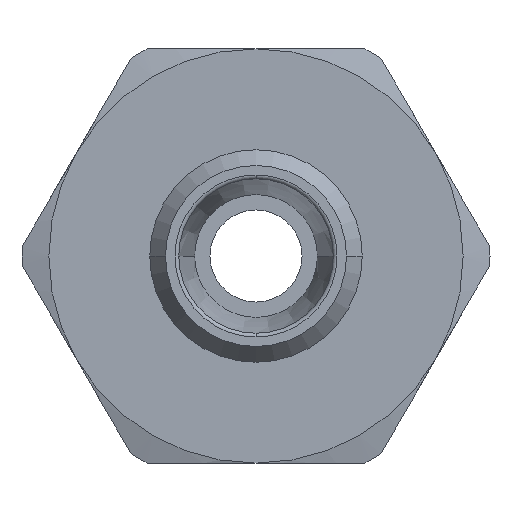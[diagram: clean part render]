
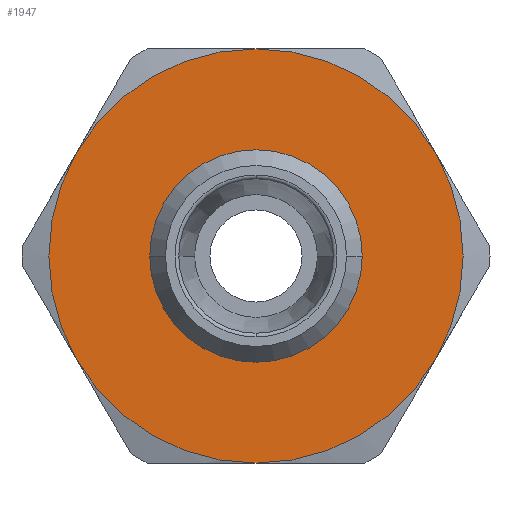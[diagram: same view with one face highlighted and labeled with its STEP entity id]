
A CAD part, left-side view. The second image highlights one B-rep face of the part: STEP entity #1947.
In plain terms, the highlighted planar face has unit normal (-1, 0, 0) as drawn and (0, 0, 1) by its records, which use the part's own axes.
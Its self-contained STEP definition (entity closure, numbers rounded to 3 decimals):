
#857=CARTESIAN_POINT('',(-6.8,0.,3.0));
#858=VERTEX_POINT('',#857);
#884=CARTESIAN_POINT('',(6.8,0.,3.0));
#885=VERTEX_POINT('',#884);
#893=CARTESIAN_POINT('',(0.,0.,3.0));
#894=DIRECTION('',(0.0,0.0,1.0));
#895=DIRECTION('',(-1.0,0.0,0.0));
#896=AXIS2_PLACEMENT_3D('',#893,#894,#895);
#897=CIRCLE('',#896,6.8);
#898=EDGE_CURVE('',#885,#858,#897,.T.);
#1827=CARTESIAN_POINT('',(0.,-6.8,3.));
#1828=VERTEX_POINT('',#1827);
#1829=CARTESIAN_POINT('',(0.,0.,3.0));
#1830=DIRECTION('',(0.0,0.0,1.0));
#1831=DIRECTION('',(-1.0,0.0,0.0));
#1832=AXIS2_PLACEMENT_3D('',#1829,#1830,#1831);
#1833=CIRCLE('',#1832,6.8);
#1834=EDGE_CURVE('',#858,#1828,#1833,.T.);
#1836=CARTESIAN_POINT('',(0.,0.,3.0));
#1837=DIRECTION('',(0.0,0.0,1.0));
#1838=DIRECTION('',(-1.0,0.0,0.0));
#1839=AXIS2_PLACEMENT_3D('',#1836,#1837,#1838);
#1840=CIRCLE('',#1839,6.8);
#1841=EDGE_CURVE('',#1828,#885,#1840,.T.);
#1881=CARTESIAN_POINT('',(0.,0.,3.0));
#1882=DIRECTION('',(0.0,0.0,1.0));
#1883=DIRECTION('',(1.0,0.0,0.0));
#1884=AXIS2_PLACEMENT_3D('',#1881,#1882,#1883);
#1885=PLANE('',#1884);
#1886=CARTESIAN_POINT('',(6.75,-11.691,3.));
#1887=VERTEX_POINT('',#1886);
#1888=CARTESIAN_POINT('',(13.5,0.0,3.));
#1889=VERTEX_POINT('',#1888);
#1890=CARTESIAN_POINT('',(0.,0.0,3.0));
#1891=DIRECTION('',(0.0,0.0,1.0));
#1892=DIRECTION('',(1.0,0.0,0.0));
#1893=AXIS2_PLACEMENT_3D('',#1890,#1891,#1892);
#1894=CIRCLE('',#1893,13.5);
#1895=EDGE_CURVE('',#1887,#1889,#1894,.T.);
#1896=ORIENTED_EDGE('',*,*,#1895,.T.);
#1897=CARTESIAN_POINT('',(6.75,11.691,3.));
#1898=VERTEX_POINT('',#1897);
#1899=CARTESIAN_POINT('',(0.,0.0,3.0));
#1900=DIRECTION('',(0.0,0.0,1.0));
#1901=DIRECTION('',(1.0,0.0,0.0));
#1902=AXIS2_PLACEMENT_3D('',#1899,#1900,#1901);
#1903=CIRCLE('',#1902,13.5);
#1904=EDGE_CURVE('',#1889,#1898,#1903,.T.);
#1905=ORIENTED_EDGE('',*,*,#1904,.T.);
#1906=CARTESIAN_POINT('',(-6.75,11.691,3.));
#1907=VERTEX_POINT('',#1906);
#1908=CARTESIAN_POINT('',(0.,0.0,3.0));
#1909=DIRECTION('',(0.0,0.0,1.0));
#1910=DIRECTION('',(1.0,0.0,0.0));
#1911=AXIS2_PLACEMENT_3D('',#1908,#1909,#1910);
#1912=CIRCLE('',#1911,13.5);
#1913=EDGE_CURVE('',#1898,#1907,#1912,.T.);
#1914=ORIENTED_EDGE('',*,*,#1913,.T.);
#1915=CARTESIAN_POINT('',(-13.5,0.,3.));
#1916=VERTEX_POINT('',#1915);
#1917=CARTESIAN_POINT('',(0.,0.0,3.0));
#1918=DIRECTION('',(0.0,0.0,1.0));
#1919=DIRECTION('',(1.0,0.0,0.0));
#1920=AXIS2_PLACEMENT_3D('',#1917,#1918,#1919);
#1921=CIRCLE('',#1920,13.5);
#1922=EDGE_CURVE('',#1907,#1916,#1921,.T.);
#1923=ORIENTED_EDGE('',*,*,#1922,.T.);
#1924=CARTESIAN_POINT('',(-6.75,-11.691,3.));
#1925=VERTEX_POINT('',#1924);
#1926=CARTESIAN_POINT('',(0.,0.0,3.0));
#1927=DIRECTION('',(0.0,0.0,1.0));
#1928=DIRECTION('',(1.0,0.0,0.0));
#1929=AXIS2_PLACEMENT_3D('',#1926,#1927,#1928);
#1930=CIRCLE('',#1929,13.5);
#1931=EDGE_CURVE('',#1916,#1925,#1930,.T.);
#1932=ORIENTED_EDGE('',*,*,#1931,.T.);
#1933=CARTESIAN_POINT('',(0.,0.0,3.0));
#1934=DIRECTION('',(0.0,0.0,1.0));
#1935=DIRECTION('',(1.0,0.0,0.0));
#1936=AXIS2_PLACEMENT_3D('',#1933,#1934,#1935);
#1937=CIRCLE('',#1936,13.5);
#1938=EDGE_CURVE('',#1925,#1887,#1937,.T.);
#1939=ORIENTED_EDGE('',*,*,#1938,.T.);
#1940=EDGE_LOOP('',(#1896,#1905,#1914,#1923,#1932,#1939));
#1941=FACE_OUTER_BOUND('',#1940,.T.);
#1942=ORIENTED_EDGE('',*,*,#1841,.F.);
#1943=ORIENTED_EDGE('',*,*,#1834,.F.);
#1944=ORIENTED_EDGE('',*,*,#898,.F.);
#1945=EDGE_LOOP('',(#1942,#1943,#1944));
#1946=FACE_BOUND('',#1945,.T.);
#1947=ADVANCED_FACE('',(#1941,#1946),#1885,.T.);
